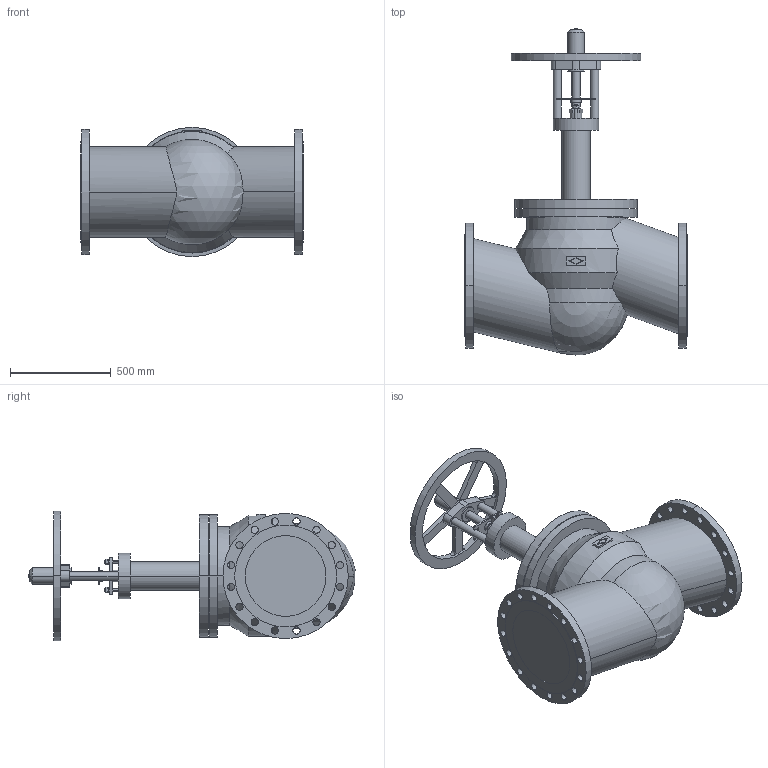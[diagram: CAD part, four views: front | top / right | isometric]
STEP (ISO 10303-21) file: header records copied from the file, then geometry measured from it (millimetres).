
FILE_DESCRIPTION(('Creo Elements/Direct Modeling STEP Export'),'2;1');
FILE_NAME('c000005008.stp','2012-09-19T12:00:11',(''),(''),'Creo Elements/Direct Modeling STEP processor for AP203 (Solid Model)','Creo Elements/Direct Modeling 17.0D 15-Jul-2011 (C) Parametric Technology GmbH','');
FILE_SCHEMA(('CONFIG_CONTROL_DESIGN'));
Length unit declared in the file: millimetre
Products named in the file (1): 1
Bounding box: 1100 x 1615.38 x 640 mm (x, y, z)
Volume: 290285627.8 mm3; surface area: 4555408.2 mm2
Topology: 1 solids, 1 shells, 274 faces, 735 edges, 487 vertices
Faces by surface type: cylinder 159, plane 109, cone 5, sphere 1
Entity records: 8654 total; most frequent: CARTESIAN_POINT 1771, ORIENTED_EDGE 1466, DIRECTION 1342, EDGE_CURVE 733, AXIS2_PLACEMENT_3D 487, VERTEX_POINT 487, EDGE_LOOP 382, VECTOR 368
